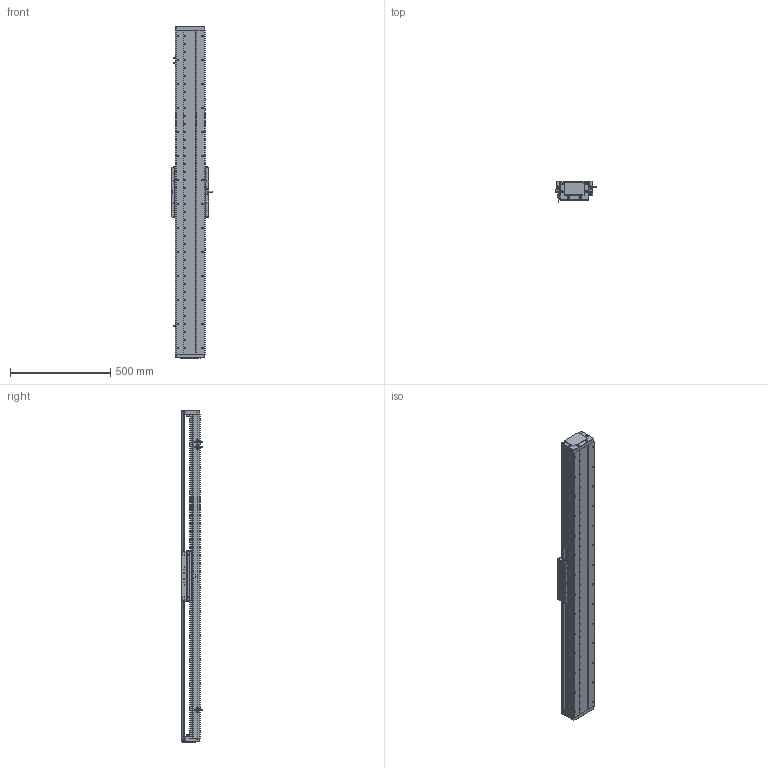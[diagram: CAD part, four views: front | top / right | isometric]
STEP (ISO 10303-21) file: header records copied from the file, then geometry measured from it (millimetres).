
FILE_DESCRIPTION (( 'STEP AP203' ), '1' );
FILE_NAME ('DA-C145-C3-T1320-C010-0.2 眻盄萇儂.STEP', '2025-08-14T01:23:25', ( '' ), ( '' ), 'SwSTEP 2.0', 'SolidWorks 2019', '' );
FILE_SCHEMA (( 'CONFIG_CONTROL_DESIGN' ));
Length unit declared in the file: millimetre
Products named in the file (29): 葩璃 DA145-DG-H-N-00 傷裔^DA-C145-C3-T-C010-0.2; 复件 半圆头内六角螺钉 M3×6^CU145-W 滚珠滑台; 复件 内六角平端紧定螺钉 GB.T77-2000 M5×10^CU145-W 滚珠滑台; 葩璃 DA145-C3-DP-A-00 菜えA^CU145-W 幗紩賑怢; 葩璃 DA145-T-003-00 裔啣^DA-C145-C3-T-C010-0.2; 复件 DA95-MFP-01 密封片^CU145-W 滚珠滑台; 66245-CU145-HT-W-00 賑雄怢啣(3D芞祧)(00); 葩璃 鞠褒情蹟譫 M3^DA-C145-C3-T-C010-0.2; 葩璃 CKM03-W060-C1C2-TP-0.2^DA-C145-C3-T-C010-0.2; 葩璃 DA95-GT-T-00^IU-CU145-L 菁釱絳寢; 复件 DA145-C3-YB-A-00 压板A^CU145-W 滚珠滑台; 葩璃 PM-T45^DA-C145-C3-T-C010-0.2; 葩璃 XD-U-02L 棠掑喜^DA-C145-C3-T-C010-0.2; 葩璃 DA145-C3-DP-B-00 菜えB^CU145-W 幗紩賑怢; 葩璃 DA95-HXJ-00 遣喳砎蝶^DA-C145-C3-T-C010-0.2; 复件 纯铜油杯 6x6mm^CU145-W 滚珠滑台; CU145-W-00 珨极趙賑雄怢啣; CU145-W 幗紩賑怢; IU-CU145-L-00 菁釱(L1620); TAY01-M8; 复件 DA95-DB-00  挡板^CU145-W 滚珠滑台; 葩璃 CKMA01-W060-TRL^DA-C145-C3-T-C010-0.2; 复件 DA145-GYP-00 光电感应片^DA-C145-C3-T-C010-0.2; 复件 DA95-HK-GT-00 滑块钢轨^CU145-W-00 一体化滑动台板; 复件 DA145-C3-YB-B-00 压板B^CU145-W 滚珠滑台; 复件 DA145-C3-DK-00 挡块^CU145-W 滚珠滑台; IU-CU145-L 菁釱絳寢; DA-C145-C3-T1320-C010-0.2 眻盄萇儂; 葩璃 DMA-010-0.2 黍杅芛^DA-C145-C3-T-C010-0.2
Assembly tree (98 placements, depth 4):
  DA-C145-C3-T1320-C010-0.2 眻盄萇儂
    IU-CU145-L 菁釱絳寢
      IU-CU145-L-00 菁釱(L1620)
      葩璃 DA95-GT-T-00^IU-CU145-L 菁釱絳寢  x4
    CU145-W 幗紩賑怢
      CU145-W-00 珨极趙賑雄怢啣
        66245-CU145-HT-W-00 賑雄怢啣(3D芞祧)(00)
        复件 DA95-HK-GT-00 滑块钢轨^CU145-W-00 一体化滑动台板  x8
      复件 DA95-MFP-01 密封片^CU145-W 滚珠滑台  x8
      复件 DA95-DB-00  挡板^CU145-W 滚珠滑台  x8
      复件 内六角平端紧定螺钉 GB.T77-2000 M5×10^CU145-W 滚珠滑台  x4
      复件 纯铜油杯 6x6mm^CU145-W 滚珠滑台  x4
      复件 半圆头内六角螺钉 M3×6^CU145-W 滚珠滑台  x16
      复件 DA145-C3-DK-00 挡块^CU145-W 滚珠滑台  x4
      葩璃 DA145-C3-DP-B-00 菜えB^CU145-W 幗紩賑怢  x2
      复件 DA145-C3-YB-B-00 压板B^CU145-W 滚珠滑台  x2
      葩璃 DA145-C3-DP-A-00 菜えA^CU145-W 幗紩賑怢  x3
      复件 DA145-C3-YB-A-00 压板A^CU145-W 滚珠滑台  x3
      TAY01-M8  x4
    葩璃 CKMA01-W060-TRL^DA-C145-C3-T-C010-0.2
    葩璃 PM-T45^DA-C145-C3-T-C010-0.2  x3
    葩璃 XD-U-02L 棠掑喜^DA-C145-C3-T-C010-0.2
    葩璃 DA145-DG-H-N-00 傷裔^DA-C145-C3-T-C010-0.2  x2
    葩璃 DA145-T-003-00 裔啣^DA-C145-C3-T-C010-0.2
    葩璃 DA95-HXJ-00 遣喳砎蝶^DA-C145-C3-T-C010-0.2  x4
    复件 DA145-GYP-00 光电感应片^DA-C145-C3-T-C010-0.2
    葩璃 DMA-010-0.2 黍杅芛^DA-C145-C3-T-C010-0.2
    葩璃 CKM03-W060-C1C2-TP-0.2^DA-C145-C3-T-C010-0.2
    葩璃 鞠褒情蹟譫 M3^DA-C145-C3-T-C010-0.2  x8
Bounding box: 203.5 x 108.45 x 1660 mm (x, y, z)
Volume: 9698250.4 mm3; surface area: 2961205.8 mm2
Topology: 95 solids, 127 shells, 4192 faces, 11523 edges, 7160 vertices
Faces by surface type: cylinder 1891, plane 1585, cone 626, torus 86, sphere 4
Entity records: 105349 total; most frequent: CARTESIAN_POINT 28920, ORIENTED_EDGE 15044, DIRECTION 14825, EDGE_CURVE 7522, AXIS2_PLACEMENT_3D 5530, VERTEX_POINT 4849, LINE 3765, VECTOR 3765
